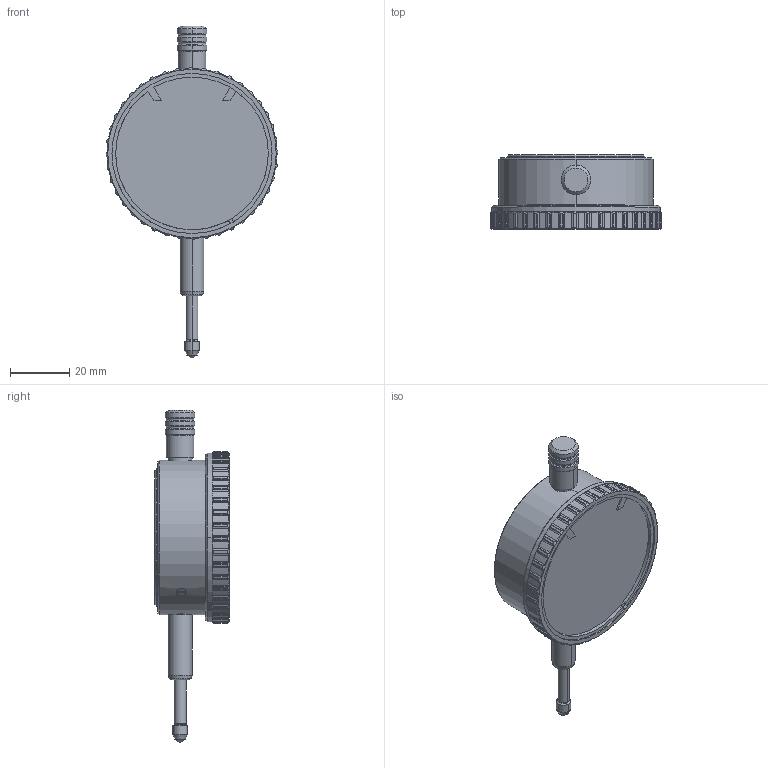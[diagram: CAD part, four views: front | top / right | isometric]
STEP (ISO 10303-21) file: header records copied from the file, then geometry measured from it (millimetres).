
FILE_DESCRIPTION(('STEP AP214'),'1');
FILE_NAME('FM1102.STP','2016-07-13T06:58:36',(' '),(' '),'Spatial InterOp 3D',' ',' ');
FILE_SCHEMA(('automotive_design'));
Length unit declared in the file: millimetre
Products named in the file (1): FM1102
Bounding box: 58 x 25 x 111.99 mm (x, y, z)
Volume: 55121.9 mm3; surface area: 10983.4 mm2
Topology: 1 solids, 1 shells, 397 faces, 1084 edges, 706 vertices
Faces by surface type: cylinder 233, plane 123, cone 40, sphere 1
Entity records: 17340 total; most frequent: CARTESIAN_POINT 4689, ORIENTED_EDGE 2168, DIRECTION 1828, EDGE_CURVE 1084, AXIS2_PLACEMENT_3D 714, VERTEX_POINT 706, EDGE_LOOP 414, LINE 400
